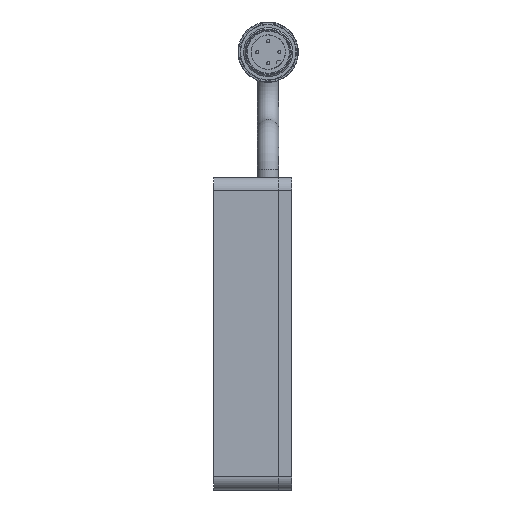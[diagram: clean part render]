
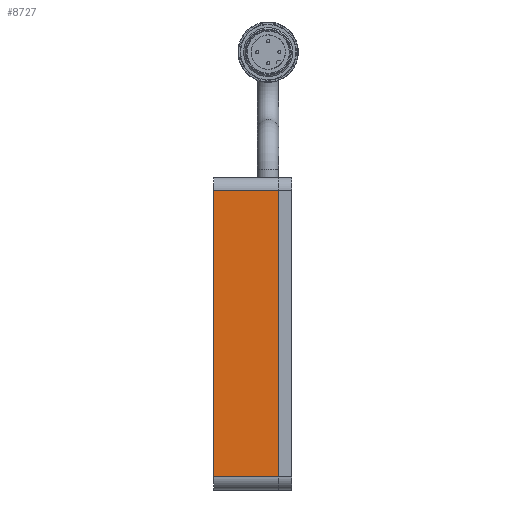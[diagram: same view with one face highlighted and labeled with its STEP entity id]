
A CAD part, left-side view. The second image highlights one B-rep face of the part: STEP entity #8727.
In plain terms, the highlighted planar face has unit normal (-1, 0, 0).
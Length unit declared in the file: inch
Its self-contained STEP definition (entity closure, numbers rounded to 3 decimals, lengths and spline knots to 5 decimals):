
#67 = ORIENTED_EDGE ( 'NONE', *, *, #8473, .T. ) ;
#100 = LINE ( 'NONE', #8584, #8277 ) ;
#823 = VERTEX_POINT ( 'NONE', #3365 ) ;
#869 = EDGE_LOOP ( 'NONE', ( #6224, #5155, #67, #6648 ) ) ;
#874 = VECTOR ( 'NONE', #7162, 39.37008 ) ;
#1060 = CARTESIAN_POINT ( 'NONE',  ( -3.5, 0.3125, 1.5 ) ) ;
#2163 = CARTESIAN_POINT ( 'NONE',  ( -3.5, 0.3125, -1.375 ) ) ;
#2739 = CARTESIAN_POINT ( 'NONE',  ( -3.5, 0.3125, 1.375 ) ) ;
#2819 = CARTESIAN_POINT ( 'NONE',  ( -3.5, 0.3125, -1.375 ) ) ;
#3135 = DIRECTION ( 'NONE',  ( 0., 0., 1. ) ) ;
#3269 = FACE_OUTER_BOUND ( 'NONE', #869, .T. ) ;
#3365 = CARTESIAN_POINT ( 'NONE',  ( -3.5, 0.3125, 1.375 ) ) ;
#3419 = LINE ( 'NONE', #1060, #874 ) ;
#3763 = DIRECTION ( 'NONE',  ( 0., -1., 0. ) ) ;
#3934 = CARTESIAN_POINT ( 'NONE',  ( -3.5, 0.3125, 1.5 ) ) ;
#4011 = LINE ( 'NONE', #2739, #8184 ) ;
#4647 = EDGE_CURVE ( 'NONE', #9841, #823, #4011, .T. ) ;
#4681 = CARTESIAN_POINT ( 'NONE',  ( -3.5, -0.3125, 1.375 ) ) ;
#4876 = DIRECTION ( 'NONE',  ( 0., 1., 0. ) ) ;
#5155 = ORIENTED_EDGE ( 'NONE', *, *, #6117, .T. ) ;
#5538 = DIRECTION ( 'NONE',  ( 1., 0., 0. ) ) ;
#6034 = LINE ( 'NONE', #2163, #9201 ) ;
#6117 = EDGE_CURVE ( 'NONE', #6402, #8738, #6034, .T. ) ;
#6224 = ORIENTED_EDGE ( 'NONE', *, *, #6625, .F. ) ;
#6402 = VERTEX_POINT ( 'NONE', #2819 ) ;
#6625 = EDGE_CURVE ( 'NONE', #6402, #823, #3419, .T. ) ;
#6648 = ORIENTED_EDGE ( 'NONE', *, *, #4647, .T. ) ;
#7162 = DIRECTION ( 'NONE',  ( 0., 0., 1. ) ) ;
#7907 = DIRECTION ( 'NONE',  ( 0., 0., -1. ) ) ;
#8184 = VECTOR ( 'NONE', #4876, 39.37008 ) ;
#8277 = VECTOR ( 'NONE', #3135, 39.37008 ) ;
#8473 = EDGE_CURVE ( 'NONE', #8738, #9841, #100, .T. ) ;
#8584 = CARTESIAN_POINT ( 'NONE',  ( -3.5, -0.3125, 1.5 ) ) ;
#8667 = PLANE ( 'NONE',  #8927 ) ;
#8727 = ADVANCED_FACE ( 'NONE', ( #3269 ), #8667, .F. ) ;
#8738 = VERTEX_POINT ( 'NONE', #9285 ) ;
#8927 = AXIS2_PLACEMENT_3D ( 'NONE', #3934, #5538, #7907 ) ;
#9201 = VECTOR ( 'NONE', #3763, 39.37008 ) ;
#9285 = CARTESIAN_POINT ( 'NONE',  ( -3.5, -0.3125, -1.375 ) ) ;
#9841 = VERTEX_POINT ( 'NONE', #4681 ) ;
